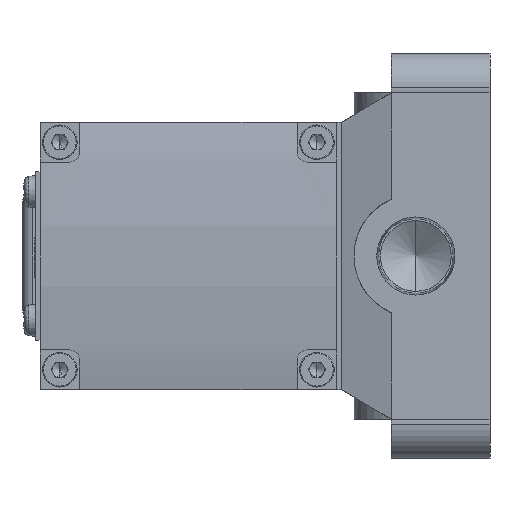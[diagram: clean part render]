
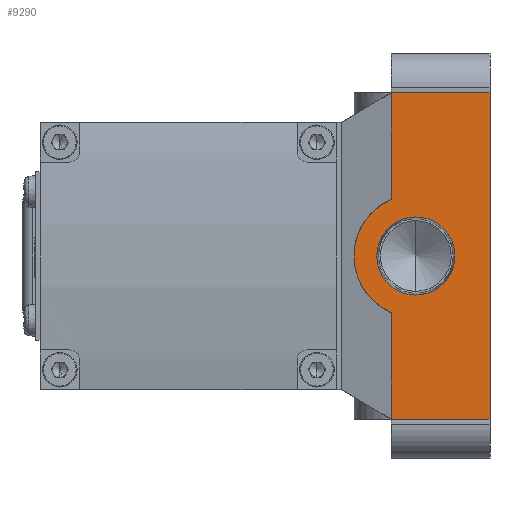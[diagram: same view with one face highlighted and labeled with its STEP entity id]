
A CAD part, left-side view. The second image highlights one B-rep face of the part: STEP entity #9290.
In plain terms, the highlighted planar face has unit normal (-1, 0, 0).
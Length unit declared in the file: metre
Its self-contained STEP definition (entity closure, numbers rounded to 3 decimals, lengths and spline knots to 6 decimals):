
#516 = ORIENTED_EDGE ( 'NONE', *, *, #26453, .F. ) ;
#582 = DIRECTION ( 'NONE',  ( -1., 0., 0. ) ) ;
#2080 = CARTESIAN_POINT ( 'NONE',  ( -0.038, 0.02, -0.033 ) ) ;
#2236 = CARTESIAN_POINT ( 'NONE',  ( -0.038, 0.015, 0. ) ) ;
#2307 = DIRECTION ( 'NONE',  ( -1., 0., 0. ) ) ;
#2339 = DIRECTION ( 'NONE',  ( 0., -1., 0. ) ) ;
#2510 = VERTEX_POINT ( 'NONE', #8325 ) ;
#2669 = ORIENTED_EDGE ( 'NONE', *, *, #24619, .F. ) ;
#2925 = PLANE ( 'NONE',  #22824 ) ;
#2955 = CARTESIAN_POINT ( 'NONE',  ( -0.038, 0.015, 0. ) ) ;
#3065 = ORIENTED_EDGE ( 'NONE', *, *, #27655, .T. ) ;
#3317 = VERTEX_POINT ( 'NONE', #24425 ) ;
#3351 = CARTESIAN_POINT ( 'NONE',  ( -0.038, 0., 0.033 ) ) ;
#3392 = DIRECTION ( 'NONE',  ( 1., 0., 0. ) ) ;
#3423 = DIRECTION ( 'NONE',  ( 0., 0., -1. ) ) ;
#3465 = CARTESIAN_POINT ( 'NONE',  ( -0.038, 0.007097, 0. ) ) ;
#3518 = DIRECTION ( 'NONE',  ( 0., 1., 0. ) ) ;
#4182 = VERTEX_POINT ( 'NONE', #13271 ) ;
#4538 = VERTEX_POINT ( 'NONE', #21151 ) ;
#4799 = CIRCLE ( 'NONE', #18441, 0.007903 ) ;
#5411 = DIRECTION ( 'NONE',  ( 0., 0., 1. ) ) ;
#5918 = EDGE_LOOP ( 'NONE', ( #11817, #27141 ) ) ;
#6285 = CARTESIAN_POINT ( 'NONE',  ( -0.038, 0.02, 0. ) ) ;
#6432 = FACE_OUTER_BOUND ( 'NONE', #14433, .T. ) ;
#6485 = VERTEX_POINT ( 'NONE', #12055 ) ;
#7742 = CARTESIAN_POINT ( 'NONE',  ( -0.038, 0.013832, -0.033 ) ) ;
#8325 = CARTESIAN_POINT ( 'NONE',  ( -0.038, 0.02, -0.011456 ) ) ;
#8577 = LINE ( 'NONE', #24901, #14297 ) ;
#9290 = ADVANCED_FACE ( 'NONE', ( #12827, #6432 ), #2925, .F. ) ;
#11180 = VERTEX_POINT ( 'NONE', #3465 ) ;
#11817 = ORIENTED_EDGE ( 'NONE', *, *, #24654, .F. ) ;
#11966 = ORIENTED_EDGE ( 'NONE', *, *, #26583, .F. ) ;
#12055 = CARTESIAN_POINT ( 'NONE',  ( -0.038, 0.022903, 0. ) ) ;
#12827 = FACE_BOUND ( 'NONE', #5918, .T. ) ;
#13271 = CARTESIAN_POINT ( 'NONE',  ( -0.038, 0., -0.033 ) ) ;
#13545 = VECTOR ( 'NONE', #3518, 1. ) ;
#14297 = VECTOR ( 'NONE', #27410, 1. ) ;
#14433 = EDGE_LOOP ( 'NONE', ( #2669, #11966, #22639, #23070, #3065, #516 ) ) ;
#14713 = LINE ( 'NONE', #30198, #26984 ) ;
#15097 = CARTESIAN_POINT ( 'NONE',  ( -0.038, 0.015, 0. ) ) ;
#15819 = CIRCLE ( 'NONE', #16938, 0.007903 ) ;
#16938 = AXIS2_PLACEMENT_3D ( 'NONE', #2236, #2307, #2339 ) ;
#17147 = AXIS2_PLACEMENT_3D ( 'NONE', #2955, #19907, #5411 ) ;
#17548 = DIRECTION ( 'NONE',  ( 0., -1., 0. ) ) ;
#18181 = LINE ( 'NONE', #6285, #24657 ) ;
#18436 = CIRCLE ( 'NONE', #17147, 0.0125 ) ;
#18441 = AXIS2_PLACEMENT_3D ( 'NONE', #15097, #582, #17548 ) ;
#19907 = DIRECTION ( 'NONE',  ( 1., 0., 0. ) ) ;
#20028 = LINE ( 'NONE', #20469, #13545 ) ;
#20469 = CARTESIAN_POINT ( 'NONE',  ( -0.038, 0.01, 0.033 ) ) ;
#20817 = DIRECTION ( 'NONE',  ( 0., 0., 1. ) ) ;
#21151 = CARTESIAN_POINT ( 'NONE',  ( -0.038, 0.02, 0.033 ) ) ;
#21633 = EDGE_CURVE ( 'NONE', #6485, #11180, #15819, .T. ) ;
#22326 = LINE ( 'NONE', #7742, #28101 ) ;
#22349 = DIRECTION ( 'NONE',  ( 0., -1., 0. ) ) ;
#22639 = ORIENTED_EDGE ( 'NONE', *, *, #27510, .T. ) ;
#22824 = AXIS2_PLACEMENT_3D ( 'NONE', #3351, #3392, #3423 ) ;
#23070 = ORIENTED_EDGE ( 'NONE', *, *, #27560, .F. ) ;
#24425 = CARTESIAN_POINT ( 'NONE',  ( -0.038, 0.02, 0.011456 ) ) ;
#24619 = EDGE_CURVE ( 'NONE', #2510, #3317, #18436, .T. ) ;
#24654 = EDGE_CURVE ( 'NONE', #11180, #6485, #4799, .T. ) ;
#24657 = VECTOR ( 'NONE', #20817, 1. ) ;
#24901 = CARTESIAN_POINT ( 'NONE',  ( -0.038, 0., 0. ) ) ;
#25590 = VERTEX_POINT ( 'NONE', #30270 ) ;
#26453 = EDGE_CURVE ( 'NONE', #3317, #4538, #14713, .T. ) ;
#26583 = EDGE_CURVE ( 'NONE', #28459, #2510, #18181, .T. ) ;
#26984 = VECTOR ( 'NONE', #27790, 1. ) ;
#27141 = ORIENTED_EDGE ( 'NONE', *, *, #21633, .F. ) ;
#27410 = DIRECTION ( 'NONE',  ( 0., 0., -1. ) ) ;
#27510 = EDGE_CURVE ( 'NONE', #28459, #4182, #22326, .T. ) ;
#27560 = EDGE_CURVE ( 'NONE', #25590, #4182, #8577, .T. ) ;
#27655 = EDGE_CURVE ( 'NONE', #25590, #4538, #20028, .T. ) ;
#27790 = DIRECTION ( 'NONE',  ( 0., 0., 1. ) ) ;
#28101 = VECTOR ( 'NONE', #22349, 1. ) ;
#28459 = VERTEX_POINT ( 'NONE', #2080 ) ;
#30198 = CARTESIAN_POINT ( 'NONE',  ( -0.038, 0.02, 0. ) ) ;
#30270 = CARTESIAN_POINT ( 'NONE',  ( -0.038, 0., 0.033 ) ) ;
